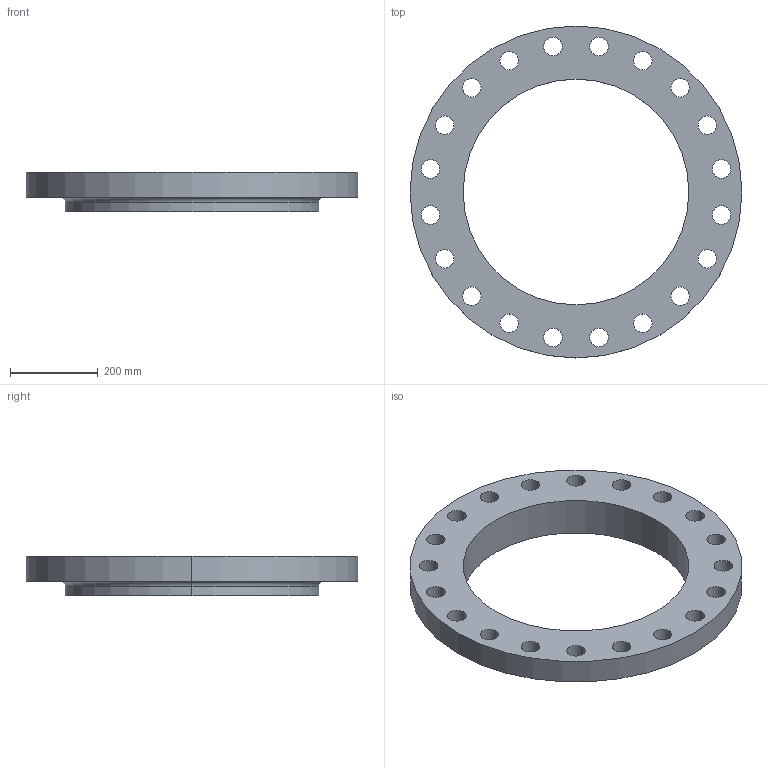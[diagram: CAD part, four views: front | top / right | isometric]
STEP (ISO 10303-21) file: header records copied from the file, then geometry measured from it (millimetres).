
FILE_DESCRIPTION (( 'STEP AP214' ), '1' );
FILE_NAME ('PN40 DN500 Type 12 - Type A Face.STEP', '2018-12-29T01:25:55', ( '' ), ( '' ), 'SwSTEP 2.0', 'SolidWorks 2019', '' );
FILE_SCHEMA (( 'AUTOMOTIVE_DESIGN' ));
Length unit declared in the file: millimetre
Products named in the file (1): PN40 DN500 Type 12 - Type A Face
Bounding box: 755 x 755 x 90 mm (x, y, z)
Volume: 13956158.5 mm3; surface area: 907050.4 mm2
Topology: 1 solids, 1 shells, 51 faces, 142 edges, 94 vertices
Faces by surface type: cylinder 46, plane 3, torus 2
Entity records: 1814 total; most frequent: DIRECTION 342, CARTESIAN_POINT 288, ORIENTED_EDGE 284, AXIS2_PLACEMENT_3D 148, EDGE_CURVE 142, CIRCLE 96, EDGE_LOOP 94, VERTEX_POINT 94
